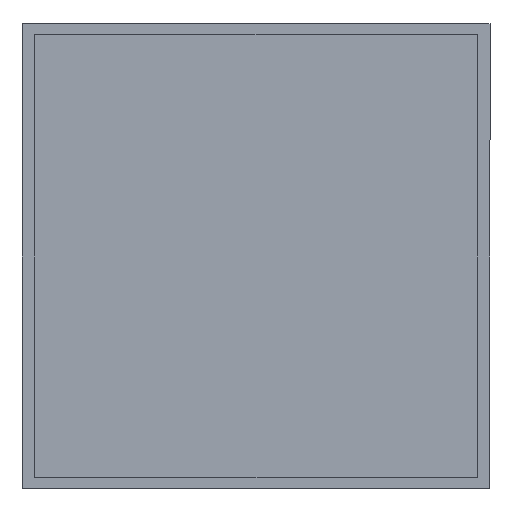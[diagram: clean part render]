
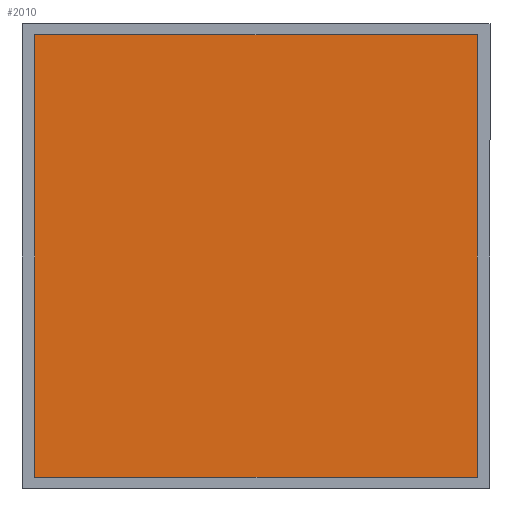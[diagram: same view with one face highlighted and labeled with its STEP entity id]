
A CAD part, front view. The second image highlights one B-rep face of the part: STEP entity #2010.
In plain terms, the highlighted planar face has unit normal (0, -1, 0).
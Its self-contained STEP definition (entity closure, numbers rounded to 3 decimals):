
#275 = CARTESIAN_POINT ( 'NONE',  ( 10.763, -5.415, -11.533 ) ) ;
#400 = LINE ( 'NONE', #2667, #3667 ) ;
#438 = CARTESIAN_POINT ( 'NONE',  ( -29.237, -5.415, 28.467 ) ) ;
#487 = CARTESIAN_POINT ( 'NONE',  ( 10.763, -5.415, -11.533 ) ) ;
#504 = CARTESIAN_POINT ( 'NONE',  ( -29.237, -5.415, -11.533 ) ) ;
#632 = DIRECTION ( 'NONE',  ( 0., 0., 1. ) ) ;
#669 = LINE ( 'NONE', #2904, #982 ) ;
#967 = PLANE ( 'NONE',  #5244 ) ;
#982 = VECTOR ( 'NONE', #632, 1000. ) ;
#1080 = EDGE_LOOP ( 'NONE', ( #5399, #2832, #5761, #4256 ) ) ;
#1707 = EDGE_CURVE ( 'NONE', #2960, #3488, #5530, .T. ) ;
#1960 = DIRECTION ( 'NONE',  ( 0., 0., -1. ) ) ;
#2010 = ADVANCED_FACE ( 'NONE', ( #4978 ), #967, .F. ) ;
#2214 = DIRECTION ( 'NONE',  ( -1., 0., 0. ) ) ;
#2598 = DIRECTION ( 'NONE',  ( 1., 0., 0. ) ) ;
#2667 = CARTESIAN_POINT ( 'NONE',  ( -29.237, -5.415, 28.467 ) ) ;
#2832 = ORIENTED_EDGE ( 'NONE', *, *, #7010, .F. ) ;
#2904 = CARTESIAN_POINT ( 'NONE',  ( -29.237, -5.415, -11.533 ) ) ;
#2960 = VERTEX_POINT ( 'NONE', #6941 ) ;
#3488 = VERTEX_POINT ( 'NONE', #275 ) ;
#3667 = VECTOR ( 'NONE', #2598, 1000. ) ;
#3998 = VERTEX_POINT ( 'NONE', #4947 ) ;
#4256 = ORIENTED_EDGE ( 'NONE', *, *, #6602, .F. ) ;
#4334 = EDGE_CURVE ( 'NONE', #6448, #3998, #669, .T. ) ;
#4947 = CARTESIAN_POINT ( 'NONE',  ( -29.237, -5.415, 28.467 ) ) ;
#4974 = VECTOR ( 'NONE', #2214, 1000. ) ;
#4978 = FACE_OUTER_BOUND ( 'NONE', #1080, .T. ) ;
#5244 = AXIS2_PLACEMENT_3D ( 'NONE', #438, #5956, #5457 ) ;
#5399 = ORIENTED_EDGE ( 'NONE', *, *, #4334, .F. ) ;
#5457 = DIRECTION ( 'NONE',  ( 0., 0., 1. ) ) ;
#5530 = LINE ( 'NONE', #487, #6159 ) ;
#5761 = ORIENTED_EDGE ( 'NONE', *, *, #1707, .F. ) ;
#5956 = DIRECTION ( 'NONE',  ( 0., 1., 0. ) ) ;
#6159 = VECTOR ( 'NONE', #1960, 1000. ) ;
#6448 = VERTEX_POINT ( 'NONE', #7097 ) ;
#6602 = EDGE_CURVE ( 'NONE', #3998, #2960, #400, .T. ) ;
#6941 = CARTESIAN_POINT ( 'NONE',  ( 10.763, -5.415, 28.467 ) ) ;
#7010 = EDGE_CURVE ( 'NONE', #3488, #6448, #7245, .T. ) ;
#7097 = CARTESIAN_POINT ( 'NONE',  ( -29.237, -5.415, -11.533 ) ) ;
#7245 = LINE ( 'NONE', #504, #4974 ) ;
